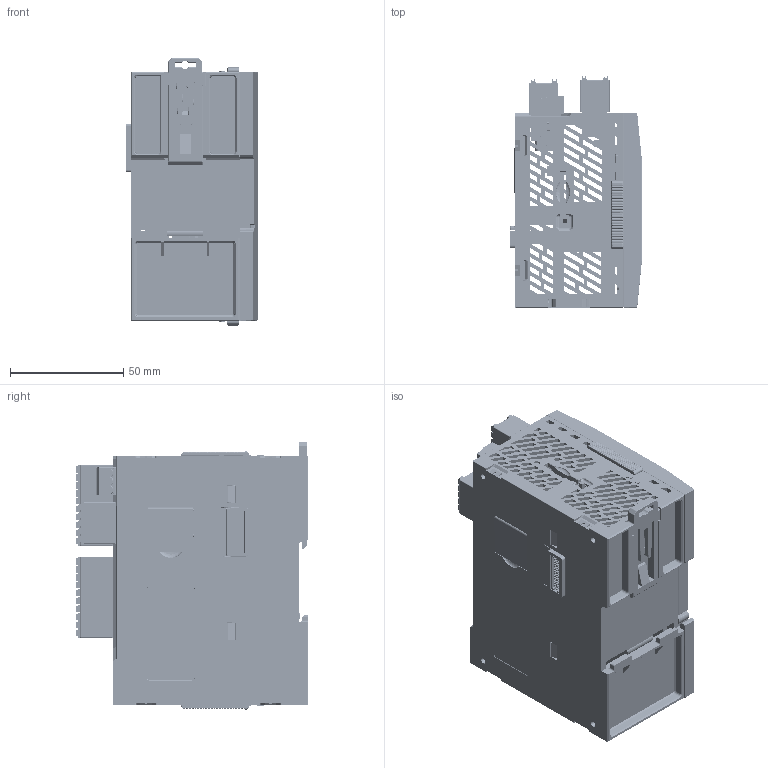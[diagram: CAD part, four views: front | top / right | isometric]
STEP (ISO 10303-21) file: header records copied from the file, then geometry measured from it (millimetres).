
FILE_DESCRIPTION((''),'2;1');
FILE_NAME('RT-RM510_ASM','2024-09-06T14:56:15',('ruiwe'),(''),'CREO PARAMETRIC BY PTC INC, 2021063','CREO PARAMETRIC BY PTC INC, 2021063','');
FILE_SCHEMA(('CONFIG_CONTROL_DESIGN','SHAPE_APPEARANCE_LAYERS_GROUPS'));
Products named in the file (21): RT-XG-REX1; RT-SG-RX3U-RM51000; REX1-0001; REX1-0002; RM5100001; EIO-REX1-2X1000; EIO-R60-TYPE-C00; ECIO-2X1000; EIO-R60IO-2X500; GSP002RC-3_81-03P; EIO-REX1-2X500; 0001; ECIO-03P00; RM510-0001; RM510-00; _10001; RT-REX1--200; 0002; RM510-0003_ASM; EIO0001; RT-RM510_ASM
Assembly tree (23 placements, depth 3):
  RT-RM510_ASM
    RT-XG-REX1
    RT-SG-RX3U-RM51000
    REX1-0001
    REX1-0002
    RM5100001  x2
    EIO-REX1-2X1000  x2
    EIO-R60-TYPE-C00
    ECIO-2X1000  x2
    EIO-R60IO-2X500
    GSP002RC-3_81-03P
    EIO-REX1-2X500
    0001
    ECIO-03P00
    RM510-0001
    RM510-00
    _10001
    RM510-0003_ASM
      RT-REX1--200
      0002
    EIO0001
Bounding box: 58 x 102.3 x 118.05 mm (x, y, z)
Volume: 167050.7 mm3; surface area: 179021.4 mm2
Topology: 22 solids, 508 shells, 8102 faces, 27249 edges, 19989 vertices
Faces by surface type: plane 5682, cylinder 1593, cone 312, torus 218, bspline 172, sphere 120, revolution 3, extrusion 2
Entity records: 322657 total; most frequent: CARTESIAN_POINT 79079, ORIENTED_EDGE 39889, DIRECTION 34759, EDGE_CURVE 23682, VERTEX_POINT 17749, VECTOR 16548, LINE 16546, AXIS2_PLACEMENT_3D 9104
